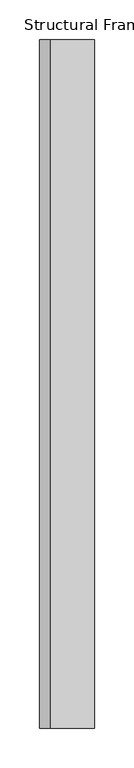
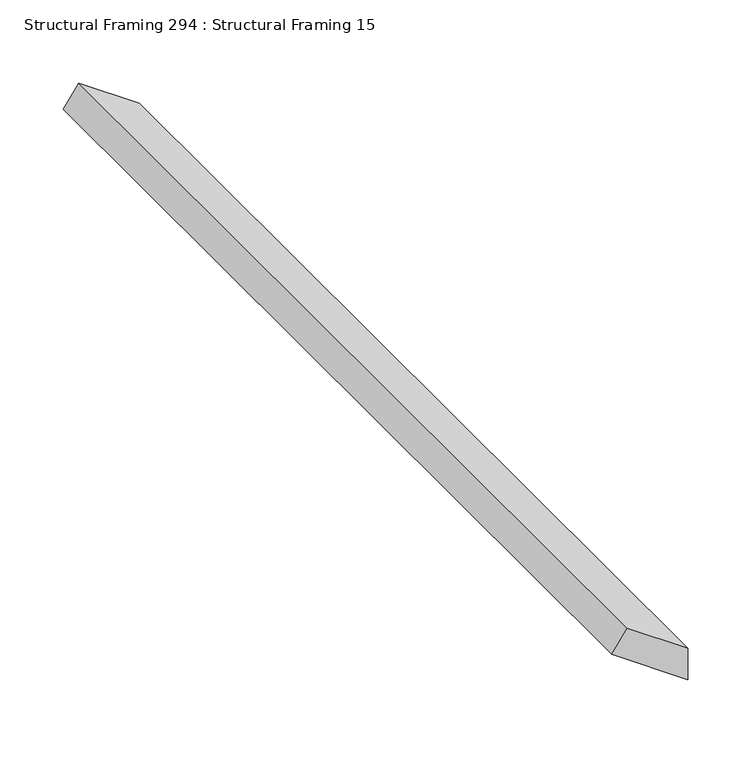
"""IFC4 building model written with IfcOpenShell, lengths in millimetres: beam geometry, Structural Framing 294 : Structural Framing 15."""

import ifcopenshell
import ifcopenshell.guid

model = None  # the IFC model being written
_history = None  # IfcOwnerHistory: only IFC2X3 demands one
_inside = {}  # id of a spatial element -> (the spatial element, [elements in it])
_under = {}  # id of a project, library or spatial element -> (it, [spatial elements below it])
_declared = {}  # id of a project -> (the project, [libraries it declares])
_typed = {}  # id of a type object -> (the type object, [elements of that type])
_made_of = {}  # id of a material, layer set ... -> (it, [elements and type objects made of it])


def new_model(schema):
    """Start an empty IFC model of exactly this schema.

    Asked for "IFC4X3", IfcOpenShell would pick the latest addendum, in which some entities
    have other attributes; the version numbers below select the first issue.
    IFC2X3 requires an IfcOwnerHistory on every rooted entity: one is made here for all.
    """
    global model, _history
    if schema == "IFC4X3":
        model = ifcopenshell.file(schema_version=(4, 3, 0, 0))
    else:
        model = ifcopenshell.file(schema=schema)
    _inside.clear()
    _under.clear()
    _declared.clear()
    _typed.clear()
    _made_of.clear()
    _history = None
    if model.schema == "IFC2X3":
        org = make("IfcOrganization", Name="unknown")
        user = make(
            "IfcPersonAndOrganization",
            ThePerson=make("IfcPerson", FamilyName="unknown"),
            TheOrganization=org,
        )
        app = make(
            "IfcApplication",
            ApplicationDeveloper=org,
            Version="unknown",
            ApplicationFullName="unknown",
            ApplicationIdentifier="unknown",
        )
        _history = make(
            "IfcOwnerHistory",
            OwningUser=user,
            OwningApplication=app,
            ChangeAction="ADDED",
            CreationDate=0,
        )
    return model


def make(cls, **values):
    """One entity of the class cls with the attributes given. An attribute that is None is left unset."""
    return model.create_entity(
        cls, **{name: value for name, value in values.items() if value is not None}
    )


def rooted(cls, **values):
    """An entity with a GlobalId (a new one), such as an element, a storey or a relation."""
    return make(cls, GlobalId=ifcopenshell.guid.new(), OwnerHistory=_history, **values)


def si_unit(unit_type, name, prefix=None):
    """IfcSIUnit, for example si_unit("LENGTHUNIT", "METRE", prefix="MILLI")."""
    return make("IfcSIUnit", UnitType=unit_type, Prefix=prefix, Name=name)


def assignment(units):
    """IfcUnitAssignment: the units of a project."""
    return None if units is None else make("IfcUnitAssignment", Units=units)


def point(xyz):
    """IfcCartesianPoint."""
    return None if xyz is None else make("IfcCartesianPoint", Coordinates=xyz)


def direction(xyz):
    """IfcDirection."""
    return None if xyz is None else make("IfcDirection", DirectionRatios=xyz)


def frame(location, z_axis=None, x_axis=None):
    """IfcAxis2Placement3D, a coordinate frame: its origin and axes. An axis left out is left unset."""
    return make(
        "IfcAxis2Placement3D",
        Location=point(location),
        Axis=direction(z_axis),
        RefDirection=direction(x_axis),
    )


def origin():
    """The frame at (0, 0, 0) with its axes left unset."""
    return frame((0.0, 0.0, 0.0))


def place(relative_to, where):
    """IfcLocalPlacement: puts the frame where relative to a parent placement (None: the world)."""
    return make(
        "IfcLocalPlacement", PlacementRelTo=relative_to, RelativePlacement=where
    )


def context(
    kind, dimensions, precision=None, world=None, true_north=None, identifier=None
):
    """IfcGeometricRepresentationContext, for example the 3D "Model" context."""
    return make(
        "IfcGeometricRepresentationContext",
        ContextIdentifier=identifier,
        ContextType=kind,
        CoordinateSpaceDimension=dimensions,
        Precision=precision,
        WorldCoordinateSystem=world,
        TrueNorth=true_north,
    )


def project(units=None, contexts=None):
    """IfcProject with its units and contexts."""
    return rooted(
        "IfcProject",
        Name="project",
        RepresentationContexts=contexts,
        UnitsInContext=assignment(units),
    )


def spatial(cls, under=None, at=None, **own):
    """A site, building, storey or space (cls), placed at a placement, below another one or the project."""
    s = rooted(cls, ObjectPlacement=at, **own)
    if under is not None:
        _under.setdefault(under.id(), (under, []))[1].append(s)
    return s


def polyline(points):
    """IfcPolyline through the points."""
    return make("IfcPolyline", Points=[point(p) for p in points])


def outline(outer, holes=None, kind="AREA"):
    """IfcArbitraryClosedProfileDef: a profile drawn as a closed curve; with holes, ...WithVoids."""
    if holes is None:
        return make("IfcArbitraryClosedProfileDef", ProfileType=kind, OuterCurve=outer)
    return make(
        "IfcArbitraryProfileDefWithVoids",
        ProfileType=kind,
        OuterCurve=outer,
        InnerCurves=holes,
    )


def extrude(swept, where, along, depth):
    """IfcExtrudedAreaSolid: the profile swept, set in the frame where, extruded along a direction by depth."""
    return make(
        "IfcExtrudedAreaSolid",
        SweptArea=swept,
        Position=where,
        ExtrudedDirection=direction(along),
        Depth=depth,
    )


def shape(context_of_items, identifier, shape_type, items):
    """IfcShapeRepresentation: the items that make up one representation, for example the "Body"."""
    return make(
        "IfcShapeRepresentation",
        ContextOfItems=context_of_items,
        RepresentationIdentifier=identifier,
        RepresentationType=shape_type,
        Items=items,
    )


def source(mapping_origin, context_of_items, identifier, shape_type, items):
    """IfcRepresentationMap: a shape defined once, which mapped items show again and again."""
    return make(
        "IfcRepresentationMap",
        MappingOrigin=mapping_origin,
        MappedRepresentation=shape(context_of_items, identifier, shape_type, items),
    )


def transform(
    local_origin,
    x_axis=None,
    y_axis=None,
    z_axis=None,
    scale=None,
    scale2=None,
    scale3=None,
    uniform=True,
):
    """IfcCartesianTransformationOperator3D, or its non-uniform kind. x_axis, y_axis, z_axis: its Axis1, 2, 3."""
    if uniform:
        return make(
            "IfcCartesianTransformationOperator3D",
            Axis1=direction(x_axis),
            Axis2=direction(y_axis),
            LocalOrigin=point(local_origin),
            Scale=scale,
            Axis3=direction(z_axis),
        )
    return make(
        "IfcCartesianTransformationOperator3DnonUniform",
        Axis1=direction(x_axis),
        Axis2=direction(y_axis),
        LocalOrigin=point(local_origin),
        Scale=scale,
        Axis3=direction(z_axis),
        Scale2=scale2,
        Scale3=scale3,
    )


def mapped(mapping_source, mapping_target):
    """IfcMappedItem: shows the shape of a source again, moved by a transform."""
    return make(
        "IfcMappedItem", MappingSource=mapping_source, MappingTarget=mapping_target
    )


def made_of(thing, what):
    """Note that an element or type object is made of a material, layer set ...; save() writes the relation."""
    if what is not None:
        _made_of.setdefault(what.id(), (what, []))[1].append(thing)
    return thing


def element(
    cls,
    number,
    at=None,
    inside=None,
    cuts=None,
    type_object=None,
    material=None,
    context=None,
    identifier="Body",
    shape_type=None,
    held_by="IfcProductDefinitionShape",
    body=None,
    shapes=None,
    **own,
):
    """One element of the class cls, such as IfcWall. Its Tag is "e" and its number.

    at: its placement. inside: the storey or other place that contains it. cuts: it is an
    opening in that element (IfcRelVoidsElement). A single representation is given by context,
    identifier, shape_type and body (its items); several are given by shapes. held_by: the class
    of the entity that holds the representations. save() writes the other relations.
    """
    e = rooted(cls, Tag="e%d" % number, ObjectPlacement=at, **own)
    if body is not None:
        shapes = [shape(context, identifier, shape_type, body)]
    if shapes is not None:
        e.Representation = make(held_by, Representations=shapes)
    if inside is not None:
        _inside.setdefault(inside.id(), (inside, []))[1].append(e)
    if cuts is not None:
        rooted(
            "IfcRelVoidsElement", RelatingBuildingElement=cuts, RelatedOpeningElement=e
        )
    if type_object is not None:
        _typed.setdefault(type_object.id(), (type_object, []))[1].append(e)
    return made_of(e, material)


def aggregate(whole, parts):
    """IfcRelAggregates: a whole, such as a stair, and the parts it consists of."""
    return rooted("IfcRelAggregates", RelatingObject=whole, RelatedObjects=parts)


def save(model, path):
    """Write the relations noted so far, then the file.

    IfcRelAggregates (storeys below a building ...), IfcRelContainedInSpatialStructure (elements
    in a storey), IfcRelDefinesByType, IfcRelAssociatesMaterial and IfcRelDeclares: one each for
    every whole, place, type object, material and project.
    """
    for whole, parts in _under.values():
        aggregate(whole, parts)
    for where, things in _inside.values():
        rooted(
            "IfcRelContainedInSpatialStructure",
            RelatedElements=things,
            RelatingStructure=where,
        )
    for kind, things in _typed.values():
        rooted("IfcRelDefinesByType", RelatedObjects=things, RelatingType=kind)
    for what, things in _made_of.values():
        rooted("IfcRelAssociatesMaterial", RelatedObjects=things, RelatingMaterial=what)
    for by, libraries in _declared.values():
        rooted("IfcRelDeclares", RelatingContext=by, RelatedDefinitions=libraries)
    model.write(path)


def structural_framing_294_structural_framing_15_d6bc8154(model_context):
    return source(origin(), model_context, "Body", "SweptSolid", [
        extrude(outline(polyline([(100.0, 5062.7785255), (51.1319528, 5132.5693297), (81.6513175, 5132.5693297), (120.4788011, 5077.1179364), (100.0, 5062.7785255)])), frame((0.0, -6581.9491979, 0.0), z_axis=(0.0, 1.0, 0.0), x_axis=(0.0, 0.0, 1.0)), (0.0, 0.0, 1.0), 870.0),
    ])


if __name__ == "__main__":
    model = new_model("IFC4")
    model_context = context("Model", 3, world=origin())
    ifc_project = project(units=[si_unit("LENGTHUNIT", "METRE", prefix="MILLI")], contexts=[model_context])
    site = spatial("IfcSite", under=ifc_project)
    building = spatial("IfcBuilding", under=site)
    placement = place(None, origin())
    structural_framing_294_structural_framing_15_shape = structural_framing_294_structural_framing_15_d6bc8154(model_context)
    element("IfcBeam", 1, ObjectType="Structural Framing 294 : Structural Framing 15", at=placement, inside=building, context=model_context, shape_type="MappedRepresentation", body=[
        mapped(structural_framing_294_structural_framing_15_shape, transform((0.0, 0.0, 0.0), x_axis=(1.0, 0.0, 0.0), y_axis=(0.0, 1.0, 0.0), z_axis=(0.0, 0.0, 1.0))),
    ])
    save(model, "model.ifc")
